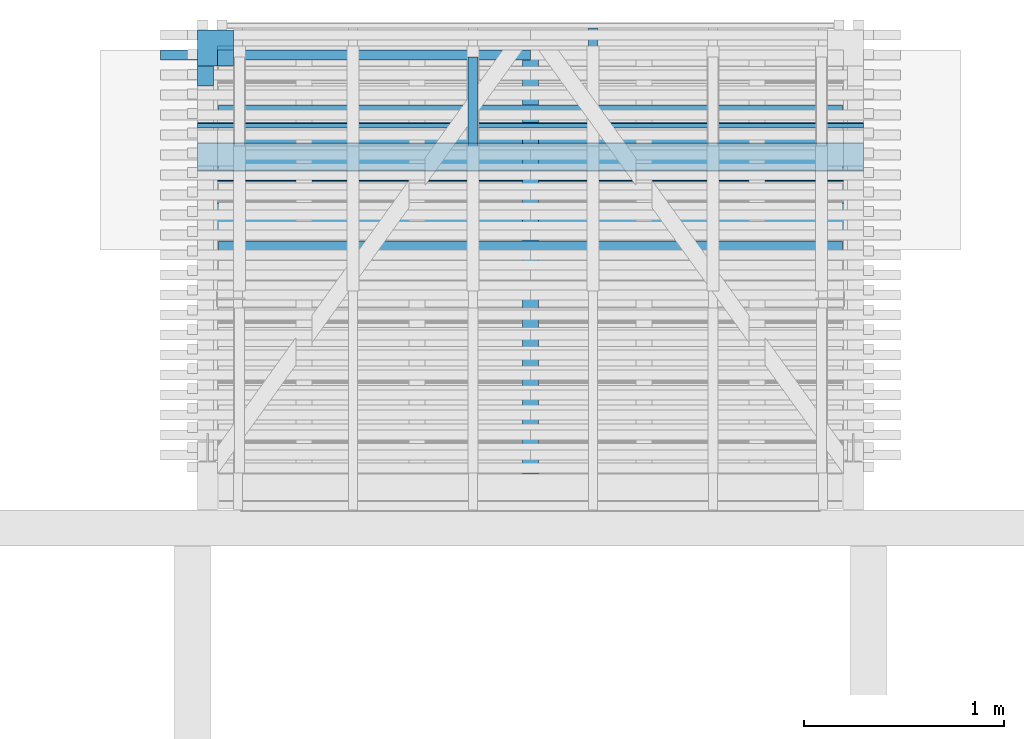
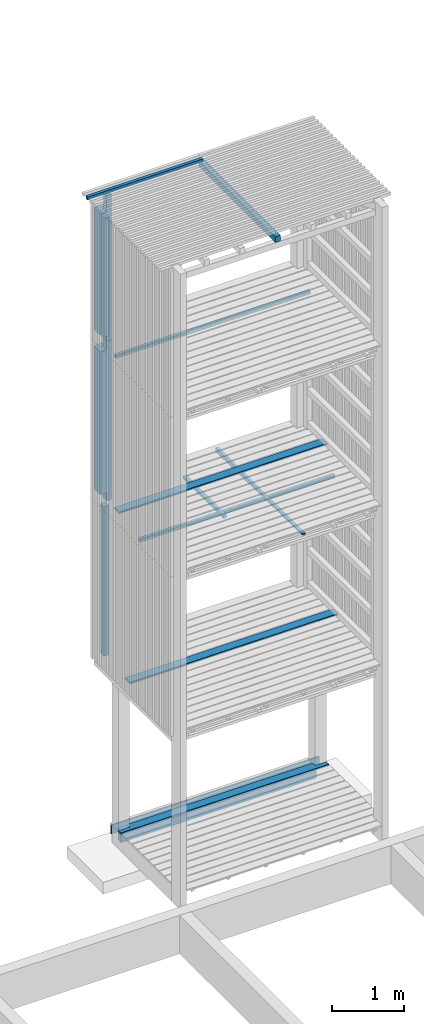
# One storey, part 146 of 182: 15 beams.
"""IFC2X3 building model written with IfcOpenShell, lengths in metres."""

from ifc_helpers import new_model, si_unit, frame, origin, place, context, project, spatial, faceted_brep, element, save


model = new_model("IFC2X3")

# Units and contexts
model_context = context("Model", 3, precision=1e-06, world=origin())
ifc_project = project(units=[si_unit("LENGTHUNIT", "METRE"), si_unit("PLANEANGLEUNIT", "RADIAN")], contexts=[model_context])

# Site, building, storey
site = spatial("IfcSite", under=ifc_project, CompositionType="ELEMENT")
building = spatial("IfcBuilding", under=site, CompositionType="ELEMENT")
storey = spatial("IfcBuildingStorey", under=building, Name="vs", CompositionType="ELEMENT", Elevation=-0.85)

# Beams
placement = place(None, origin())
beam_1_placement = place(placement, frame((36.38499999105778, 11.934577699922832, 2.733499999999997), z_axis=(0.0, 0.0, 1.0), x_axis=(-1.0, -8e-15, 0.0)))
element("IfcBeam", 1, at=beam_1_placement, inside=storey, Name="Caillebotis", context=model_context, shape_type="Brep", body=[
    faceted_brep([(3.329999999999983, -0.072500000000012, -0.0135), (3.329999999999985, 0.072499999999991, -0.0135), (3.329999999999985, 0.072499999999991, 0.0085), (3.329999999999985, 0.067499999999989, 0.0135), (3.329999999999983, -0.067500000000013, 0.0135), (3.329999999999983, -0.072500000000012, 0.008500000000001), (-1.5e-14, -0.072499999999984, 0.008500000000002), (-1.5e-14, -0.067499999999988, 0.0135), (-1.4e-14, 0.067500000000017, 0.0135), (-1.4e-14, 0.072500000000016, 0.0085), (-1.4e-14, 0.072500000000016, -0.0135), (-1.5e-14, -0.072499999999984, -0.0135), (3.329999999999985, 0.072499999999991, 0.0085), (3.329999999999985, 0.072499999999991, -0.0135), (-1.4e-14, 0.072500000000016, -0.0135), (-1.4e-14, 0.072500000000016, 0.0085), (3.329999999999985, 0.067499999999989, 0.0135), (3.329999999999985, 0.072499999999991, 0.0085), (-1.4e-14, 0.072500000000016, 0.0085), (-1.4e-14, 0.067500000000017, 0.0135), (3.329999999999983, -0.067500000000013, 0.0135), (3.329999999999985, 0.067499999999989, 0.0135), (-1.4e-14, 0.067500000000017, 0.0135), (-1.5e-14, -0.067499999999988, 0.0135), (3.329999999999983, -0.072500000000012, 0.008500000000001), (3.329999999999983, -0.067500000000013, 0.0135), (-1.5e-14, -0.067499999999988, 0.0135), (-1.5e-14, -0.072499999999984, 0.008500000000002), (3.329999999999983, -0.072500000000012, -0.0135), (3.329999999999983, -0.072500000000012, 0.008500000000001), (-1.5e-14, -0.072499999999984, 0.008500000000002), (-1.5e-14, -0.072499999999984, -0.0135), (-1.4e-14, 0.072500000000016, -0.0135), (3.329999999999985, 0.072499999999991, -0.0135), (3.329999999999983, -0.072500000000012, -0.0135), (-1.5e-14, -0.072499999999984, -0.0135)], [[[0, 1, 2, 3, 4, 5]], [[6, 7, 8, 9, 10, 11]], [[12, 13, 14, 15]], [[16, 17, 18, 19]], [[20, 21, 22, 23]], [[24, 25, 26, 27]], [[28, 29, 30, 31]], [[32, 33, 34, 35]]]),
])
beam_2_placement = place(placement, frame((36.384999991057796, 12.234577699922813, 5.433499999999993), z_axis=(0.0, 0.0, 1.0), x_axis=(-1.0, 0.0, 0.0)))
element("IfcBeam", 2, at=beam_2_placement, inside=storey, Name="Caillebotis", context=model_context, shape_type="Brep", body=[
    faceted_brep([(3.329999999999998, -0.072499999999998, -0.0135), (3.329999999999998, 0.072499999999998, -0.0135), (3.329999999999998, 0.072499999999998, 0.0085), (3.329999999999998, 0.067500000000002, 0.0135), (3.329999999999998, -0.067500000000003, 0.0135), (3.329999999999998, -0.072499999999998, 0.008500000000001), (0.0, -0.072500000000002, 0.008500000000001), (0.0, -0.067500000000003, 0.0135), (0.0, 0.067499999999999, 0.0135), (0.0, 0.072499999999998, 0.0085), (0.0, 0.072499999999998, -0.0135), (0.0, -0.072500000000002, -0.0135), (3.329999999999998, 0.072499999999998, 0.0085), (3.329999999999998, 0.072499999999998, -0.0135), (0.0, 0.072499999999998, -0.0135), (0.0, 0.072499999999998, 0.0085), (3.329999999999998, 0.067500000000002, 0.0135), (3.329999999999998, 0.072499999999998, 0.0085), (0.0, 0.072499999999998, 0.0085), (0.0, 0.067499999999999, 0.0135), (3.329999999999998, -0.067500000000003, 0.0135), (3.329999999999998, 0.067500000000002, 0.0135), (0.0, 0.067499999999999, 0.0135), (0.0, -0.067500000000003, 0.0135), (3.329999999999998, -0.072499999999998, 0.008500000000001), (3.329999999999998, -0.067500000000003, 0.0135), (0.0, -0.067500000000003, 0.0135), (0.0, -0.072500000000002, 0.008500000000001), (3.329999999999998, -0.072499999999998, -0.0135), (3.329999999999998, -0.072499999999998, 0.008500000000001), (0.0, -0.072500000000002, 0.008500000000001), (0.0, -0.072500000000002, -0.0135), (0.0, 0.072499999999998, -0.0135), (3.329999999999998, 0.072499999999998, -0.0135), (3.329999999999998, -0.072499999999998, -0.0135), (0.0, -0.072500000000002, -0.0135)], [[[0, 1, 2, 3, 4, 5]], [[6, 7, 8, 9, 10, 11]], [[12, 13, 14, 15]], [[16, 17, 18, 19]], [[20, 21, 22, 23]], [[24, 25, 26, 27]], [[28, 29, 30, 31]], [[32, 33, 34, 35]]]),
])
beam_3_placement = place(placement, frame((36.28499999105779, 12.33007769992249, -0.159999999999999), z_axis=(0.0, 0.0, 1.0), x_axis=(-1.0, 0.0, 0.0)))
element("IfcBeam", 3, at=beam_3_placement, inside=storey, Name="Sommier", context=model_context, shape_type="Brep", body=[
    faceted_brep([(3.129999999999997, 0.040000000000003, -0.1), (3.129999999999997, -0.039999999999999, -0.1), (1e-15, -0.040000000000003, -0.1), (1e-15, 0.039999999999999, -0.1), (3.129999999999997, 0.040000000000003, 0.1), (3.129999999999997, 0.040000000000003, -0.1), (1e-15, 0.039999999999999, -0.1), (1e-15, 0.039999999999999, 0.1), (3.129999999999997, 0.040000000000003, -0.1), (3.129999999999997, 0.040000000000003, 0.1), (3.129999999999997, -0.039999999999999, 0.1), (3.129999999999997, -0.039999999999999, -0.1), (3.129999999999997, -0.039999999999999, 0.1), (3.129999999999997, 0.040000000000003, 0.1), (1e-15, 0.039999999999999, 0.1), (1e-15, -0.040000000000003, 0.1), (1e-15, -0.040000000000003, -0.1), (3.129999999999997, -0.039999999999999, -0.1), (3.129999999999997, -0.039999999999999, 0.1), (1e-15, -0.040000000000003, 0.1), (1e-15, 0.039999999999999, -0.1), (1e-15, -0.040000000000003, -0.1), (1e-15, -0.040000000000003, 0.1), (1e-15, 0.039999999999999, 0.1)], [[[0, 1, 2, 3]], [[4, 5, 6, 7]], [[8, 9, 10, 11]], [[12, 13, 14, 15]], [[16, 17, 18, 19]], [[20, 21, 22, 23]]]),
])
beam_4_placement = place(placement, frame((36.38499999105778, 12.184577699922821, 0.033500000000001), z_axis=(0.0, 0.0, 1.0), x_axis=(-1.0, 0.0, 0.0)))
element("IfcBeam", 4, at=beam_4_placement, inside=storey, Name="Caillebotis", context=model_context, shape_type="Brep", body=[
    faceted_brep([(0.184999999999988, -0.000499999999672, -0.0135), (0.184999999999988, -0.072499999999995, -0.0135), (0.184999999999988, -0.072499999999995, 0.008500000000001), (0.184999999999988, -0.067499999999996, 0.0135), (0.184999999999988, -0.000499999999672, 0.0135), (3.329999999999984, -0.000499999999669, 0.0135), (3.329999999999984, -0.000499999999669, -0.013500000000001), (3.329999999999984, 0.072500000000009, -0.013500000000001), (3.329999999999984, 0.072500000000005, 0.0085), (3.329999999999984, 0.067500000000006, 0.0135), (3.144999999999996, -0.072499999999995, 0.008500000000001), (3.144999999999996, -0.072499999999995, -0.013500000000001), (3.144999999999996, -0.000499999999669, -0.013500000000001), (3.144999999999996, -0.000499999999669, 0.0135), (3.144999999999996, -0.067499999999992, 0.0135), (3.144999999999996, -0.000499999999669, 0.0135), (3.144999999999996, -0.000499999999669, -0.013500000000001), (3.329999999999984, -0.000499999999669, -0.013500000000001), (3.329999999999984, -0.000499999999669, 0.0135), (0.184999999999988, -0.067499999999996, 0.0135), (0.184999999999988, -0.072499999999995, 0.008500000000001), (3.144999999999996, -0.072499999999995, 0.008500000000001), (3.144999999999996, -0.067499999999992, 0.0135), (0.184999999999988, -0.072499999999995, 0.008500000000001), (0.184999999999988, -0.072499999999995, -0.0135), (3.144999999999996, -0.072499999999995, -0.013500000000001), (3.144999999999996, -0.072499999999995, 0.008500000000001), (0.0, 0.072500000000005, -0.0135), (0.0, -0.000499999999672, -0.0135), (0.0, -0.000499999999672, 0.0135), (0.0, 0.067500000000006, 0.0135), (0.0, 0.072500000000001, 0.0085), (0.184999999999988, -0.000499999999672, 0.0135), (0.184999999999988, -0.067499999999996, 0.0135), (3.144999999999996, -0.067499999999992, 0.0135), (3.144999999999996, -0.000499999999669, 0.0135), (3.329999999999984, -0.000499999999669, 0.0135), (3.329999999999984, 0.067500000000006, 0.0135), (0.0, 0.067500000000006, 0.0135), (0.0, -0.000499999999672, 0.0135), (0.184999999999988, -0.000499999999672, -0.0135), (0.184999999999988, -0.000499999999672, 0.0135), (0.0, -0.000499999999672, 0.0135), (0.0, -0.000499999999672, -0.0135), (3.329999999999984, 0.072500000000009, -0.013500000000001), (3.329999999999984, -0.000499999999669, -0.013500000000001), (3.144999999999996, -0.000499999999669, -0.013500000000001), (3.144999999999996, -0.072499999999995, -0.013500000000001), (0.184999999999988, -0.072499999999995, -0.0135), (0.184999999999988, -0.000499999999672, -0.0135), (0.0, -0.000499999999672, -0.0135), (0.0, 0.072500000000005, -0.0135), (3.329999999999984, 0.072500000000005, 0.0085), (3.329999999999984, 0.072500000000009, -0.013500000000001), (0.0, 0.072500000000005, -0.0135), (0.0, 0.072500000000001, 0.0085), (0.0, 0.067500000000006, 0.0135), (3.329999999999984, 0.067500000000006, 0.0135), (3.329999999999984, 0.072500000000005, 0.0085), (0.0, 0.072500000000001, 0.0085)], [[[0, 1, 2, 3, 4]], [[5, 6, 7, 8, 9]], [[10, 11, 12, 13, 14]], [[15, 16, 17, 18]], [[19, 20, 21, 22]], [[23, 24, 25, 26]], [[27, 28, 29, 30, 31]], [[32, 33, 34, 35, 36, 37, 38, 39]], [[40, 41, 42, 43]], [[44, 45, 46, 47, 48, 49, 50, 51]], [[52, 53, 54, 55]], [[56, 57, 58, 59]]]),
])
beam_5_placement = place(placement, frame((33.0549999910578, 12.393577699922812, -0.0575), z_axis=(0.0, 0.0, -1.0), x_axis=(1.0, 0.0, 0.0)))
element("IfcBeam", 5, at=beam_5_placement, inside=storey, Name="Caillebotis", context=model_context, shape_type="Brep", body=[
    faceted_brep([(2e-15, -0.008499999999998, -0.0725), (2e-15, -0.0135, -0.067500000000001), (2e-15, -0.0135, 0.067500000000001), (2e-15, -0.008500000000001, 0.0725), (2e-15, 0.013500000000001, 0.0725), (2e-15, 0.013500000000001, -0.0725), (3.329999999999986, 0.013499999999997, -0.0725), (3.329999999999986, 0.013499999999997, 0.0725), (3.329999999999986, -0.008500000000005, 0.0725), (3.329999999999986, -0.0135, 0.067500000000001), (3.329999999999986, -0.0135, -0.067500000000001), (3.329999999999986, -0.008500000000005, -0.0725), (2e-15, -0.0135, 0.067500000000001), (2e-15, -0.0135, -0.067500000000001), (3.329999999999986, -0.0135, -0.067500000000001), (3.329999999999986, -0.0135, 0.067500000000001), (2e-15, -0.008500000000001, 0.0725), (2e-15, -0.0135, 0.067500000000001), (3.329999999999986, -0.0135, 0.067500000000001), (3.329999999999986, -0.008500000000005, 0.0725), (2e-15, 0.013500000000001, 0.0725), (2e-15, -0.008500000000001, 0.0725), (3.329999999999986, -0.008500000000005, 0.0725), (3.329999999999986, 0.013499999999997, 0.0725), (2e-15, 0.013500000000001, -0.0725), (2e-15, 0.013500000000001, 0.0725), (3.329999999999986, 0.013499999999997, 0.0725), (3.329999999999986, 0.013499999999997, -0.0725), (2e-15, -0.008499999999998, -0.0725), (2e-15, 0.013500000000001, -0.0725), (3.329999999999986, 0.013499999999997, -0.0725), (3.329999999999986, -0.008500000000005, -0.0725), (3.329999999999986, -0.0135, -0.067500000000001), (2e-15, -0.0135, -0.067500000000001), (2e-15, -0.008499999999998, -0.0725), (3.329999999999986, -0.008500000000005, -0.0725)], [[[0, 1, 2, 3, 4, 5]], [[6, 7, 8, 9, 10, 11]], [[12, 13, 14, 15]], [[16, 17, 18, 19]], [[20, 21, 22, 23]], [[24, 25, 26, 27]], [[28, 29, 30, 31]], [[32, 33, 34, 35]]]),
])
beam_6_placement = place(placement, frame((35.03299999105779, 10.470077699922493, 5.384400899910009), z_axis=(0.0, 0.0, 1.0), x_axis=(0.0, 1.0, 0.0)))
element("IfcBeam", 6, at=beam_6_placement, inside=storey, Name="Calage", context=model_context, shape_type="Brep", body=[
    faceted_brep([(2.410000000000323, -0.022499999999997, -0.035599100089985), (0.0, -0.022499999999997, 0.012600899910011), (0.0, 0.022500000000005, 0.012600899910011), (2.410000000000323, 0.02249999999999, -0.035599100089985), (0.0, 0.022500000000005, 0.035599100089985), (0.0, 0.022500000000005, 0.012600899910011), (0.0, -0.022499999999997, 0.012600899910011), (0.0, -0.022499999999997, 0.035599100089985), (2.410000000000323, 0.02249999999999, -0.035599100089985), (0.0, 0.022500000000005, 0.012600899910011), (0.0, 0.022500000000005, 0.035599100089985), (2.410000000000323, 0.022500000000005, 0.035599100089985), (2.410000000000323, -0.022499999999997, 0.035599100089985), (0.0, -0.022499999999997, 0.035599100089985), (0.0, -0.022499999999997, 0.012600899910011), (2.410000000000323, -0.022499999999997, -0.035599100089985), (2.410000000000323, 0.022500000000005, 0.035599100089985), (0.0, 0.022500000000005, 0.035599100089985), (0.0, -0.022499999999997, 0.035599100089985), (2.410000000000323, -0.022499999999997, 0.035599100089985), (2.410000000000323, 0.02249999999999, -0.035599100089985), (2.410000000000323, 0.022500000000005, 0.035599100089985), (2.410000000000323, -0.022499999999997, 0.035599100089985), (2.410000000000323, -0.022499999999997, -0.035599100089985)], [[[0, 1, 2, 3]], [[4, 5, 6, 7]], [[8, 9, 10, 11]], [[12, 13, 14, 15]], [[16, 17, 18, 19]], [[20, 21, 22, 23]]]),
])
beam_7_placement = place(placement, frame((34.4329999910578, 12.735077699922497, 5.217399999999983), z_axis=(0.0, 0.0, 1.0), x_axis=(0.0, -1.0, 0.0)))
element("IfcBeam", 7, at=beam_7_placement, inside=storey, Name="Calage", context=model_context, shape_type="Brep", body=[
    faceted_brep([(1.115000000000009, 0.024999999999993, 0.024999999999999), (1.115000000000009, -0.025000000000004, 0.024999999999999), (1.115000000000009, -0.025000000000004, -0.025), (1.115000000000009, 0.024999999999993, -0.025), (0.0, -0.025000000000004, -0.025), (0.0, -0.025000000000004, 0.024999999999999), (0.0, 0.024999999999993, 0.024999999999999), (0.0, 0.024999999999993, -0.025), (1.115000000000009, -0.025000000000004, 0.024999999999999), (1.115000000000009, 0.024999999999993, 0.024999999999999), (0.0, 0.024999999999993, 0.024999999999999), (0.0, -0.025000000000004, 0.024999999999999), (1.115000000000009, -0.025000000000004, -0.025), (1.115000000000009, -0.025000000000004, 0.024999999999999), (0.0, -0.025000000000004, 0.024999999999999), (0.0, -0.025000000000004, -0.025), (1.115000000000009, 0.024999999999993, -0.025), (1.115000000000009, -0.025000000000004, -0.025), (0.0, -0.025000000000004, -0.025), (0.0, 0.024999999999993, -0.025), (0.0, 0.024999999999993, 0.024999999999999), (1.115000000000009, 0.024999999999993, 0.024999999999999), (1.115000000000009, 0.024999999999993, -0.025), (0.0, 0.024999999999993, -0.025)], [[[0, 1, 2, 3]], [[4, 5, 6, 7]], [[8, 9, 10, 11]], [[12, 13, 14, 15]], [[16, 17, 18, 19]], [[20, 21, 22, 23]]]),
])
beam_8_placement = place(placement, frame((36.27999999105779, 11.789244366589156, 5.167399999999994), z_axis=(0.0, 0.0, 1.0), x_axis=(-1.0, 0.0, 0.0)))
element("IfcBeam", 8, at=beam_8_placement, inside=storey, Name="Bardage", context=model_context, shape_type="Brep", body=[
    faceted_brep([(3.120000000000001, 0.025000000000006, -0.024999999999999), (3.120000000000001, 0.025000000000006, 0.025), (3.120000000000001, -0.024999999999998, 0.025), (3.120000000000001, -0.024999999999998, -0.024999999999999), (-3e-15, -0.024999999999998, -0.024999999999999), (-3e-15, -0.024999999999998, 0.025), (-3e-15, 0.025000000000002, 0.025), (-3e-15, 0.025000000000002, -0.024999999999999), (-3e-15, 0.025000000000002, -0.024999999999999), (-3e-15, 0.025000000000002, 0.025), (3.120000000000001, 0.025000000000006, 0.025), (3.120000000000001, 0.025000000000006, -0.024999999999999), (-3e-15, 0.025000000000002, 0.025), (-3e-15, -0.024999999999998, 0.025), (3.120000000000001, -0.024999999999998, 0.025), (3.120000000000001, 0.025000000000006, 0.025), (-3e-15, -0.024999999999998, 0.025), (-3e-15, -0.024999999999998, -0.024999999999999), (3.120000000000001, -0.024999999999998, -0.024999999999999), (3.120000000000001, -0.024999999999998, 0.025), (-3e-15, -0.024999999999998, -0.024999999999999), (-3e-15, 0.025000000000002, -0.024999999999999), (3.120000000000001, 0.025000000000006, -0.024999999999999), (3.120000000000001, -0.024999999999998, -0.024999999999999)], [[[0, 1, 2, 3]], [[4, 5, 6, 7]], [[8, 9, 10, 11]], [[12, 13, 14, 15]], [[16, 17, 18, 19]], [[20, 21, 22, 23]]]),
])
beam_9_placement = place(placement, frame((34.719999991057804, 10.650077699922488, 10.404999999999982), z_axis=(0.0, 0.0, 1.0), x_axis=(0.0, 1.0, 0.0)))
element("IfcBeam", 9, at=beam_9_placement, inside=storey, Name="Support bardage", context=model_context, shape_type="Brep", body=[
    faceted_brep([(2.120000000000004, -0.039999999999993, 0.050000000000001), (2.120000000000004, 0.040000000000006, 0.050000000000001), (3e-15, 0.040000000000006, 0.050000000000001), (3e-15, -0.039999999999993, 0.050000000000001), (3e-15, 0.040000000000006, 0.050000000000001), (2.120000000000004, 0.040000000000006, 0.050000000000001), (2.120000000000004, 0.040000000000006, -0.050000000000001), (3e-15, 0.040000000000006, -0.050000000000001), (2.120000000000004, 0.040000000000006, 0.050000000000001), (2.120000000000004, -0.039999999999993, 0.050000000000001), (2.120000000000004, -0.039999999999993, -0.050000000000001), (2.120000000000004, 0.040000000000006, -0.050000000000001), (2.120000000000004, -0.039999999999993, -0.050000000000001), (2.120000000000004, -0.039999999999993, 0.050000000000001), (3e-15, -0.039999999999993, 0.050000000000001), (3e-15, -0.039999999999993, -0.050000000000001), (3e-15, 0.040000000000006, -0.050000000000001), (2.120000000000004, 0.040000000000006, -0.050000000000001), (2.120000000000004, -0.039999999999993, -0.050000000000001), (3e-15, -0.039999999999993, -0.050000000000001), (3e-15, 0.040000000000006, 0.050000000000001), (3e-15, 0.040000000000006, -0.050000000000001), (3e-15, -0.039999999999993, -0.050000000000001), (3e-15, -0.039999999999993, 0.050000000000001)], [[[0, 1, 2, 3]], [[4, 5, 6, 7]], [[8, 9, 10, 11]], [[12, 13, 14, 15]], [[16, 17, 18, 19]], [[20, 21, 22, 23]]]),
])
beam_10_placement = place(placement, frame((36.27999999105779, 12.468827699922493, 7.86739999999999), z_axis=(0.0, 0.0, 1.0), x_axis=(-1.0, 0.0, 0.0)))
element("IfcBeam", 10, at=beam_10_placement, inside=storey, Name="Bardage", context=model_context, shape_type="Brep", body=[
    faceted_brep([(3.120000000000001, 0.025000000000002, -0.024999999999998), (3.120000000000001, 0.025000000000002, 0.025000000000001), (3.120000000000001, -0.024999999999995, 0.025000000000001), (3.120000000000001, -0.024999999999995, -0.024999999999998), (-3e-15, -0.024999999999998, -0.024999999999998), (-3e-15, -0.024999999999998, 0.025000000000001), (-3e-15, 0.025000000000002, 0.025000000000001), (-3e-15, 0.025000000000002, -0.024999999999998), (-3e-15, 0.025000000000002, -0.024999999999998), (-3e-15, 0.025000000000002, 0.025000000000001), (3.120000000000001, 0.025000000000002, 0.025000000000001), (3.120000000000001, 0.025000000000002, -0.024999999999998), (-3e-15, 0.025000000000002, 0.025000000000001), (-3e-15, -0.024999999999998, 0.025000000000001), (3.120000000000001, -0.024999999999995, 0.025000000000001), (3.120000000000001, 0.025000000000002, 0.025000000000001), (-3e-15, -0.024999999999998, 0.025000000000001), (-3e-15, -0.024999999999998, -0.024999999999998), (3.120000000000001, -0.024999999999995, -0.024999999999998), (3.120000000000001, -0.024999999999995, 0.025000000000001), (-3e-15, -0.024999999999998, -0.024999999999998), (-3e-15, 0.025000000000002, -0.024999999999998), (3.120000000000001, 0.025000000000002, -0.024999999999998), (3.120000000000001, -0.024999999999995, -0.024999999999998)], [[[0, 1, 2, 3]], [[4, 5, 6, 7]], [[8, 9, 10, 11]], [[12, 13, 14, 15]], [[16, 17, 18, 19]], [[20, 21, 22, 23]]]),
])
beam_11_placement = place(placement, frame((33.1449999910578, 12.78007769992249, 7.979999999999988), z_axis=(0.0, -1.0, 0.0), x_axis=(0.0, 0.0, 1.0)))
element("IfcBeam", 11, at=beam_11_placement, inside=storey, Name="Poteau", context=model_context, shape_type="Brep", body=[
    faceted_brep([(2.194999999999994, -0.009999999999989, 0.089999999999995), (2.194999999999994, -0.009999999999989, 0.010000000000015), (2.194999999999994, -0.089999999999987, 0.010000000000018), (2.194999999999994, -0.089999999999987, -0.090000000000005), (2.194999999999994, 0.090000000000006, -0.090000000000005), (2.194999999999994, 0.090000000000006, 0.089999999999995), (0.139999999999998, 0.090000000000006, 0.089999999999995), (2.194999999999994, 0.090000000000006, 0.089999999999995), (2.194999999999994, 0.090000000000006, -0.090000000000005), (0.139999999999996, 0.090000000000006, -0.090000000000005), (0.059999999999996, -0.009999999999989, -0.009999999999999), (0.059999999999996, -0.089999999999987, -0.009999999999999), (-1e-15, -0.089999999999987, -0.009999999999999), (-1e-15, -0.009999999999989, -0.009999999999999), (-1e-15, -0.009999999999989, 0.089999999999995), (-1e-15, -0.009999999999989, -0.009999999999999), (-1e-15, -0.089999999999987, -0.009999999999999), (-1e-15, -0.089999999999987, 0.089999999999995), (0.139999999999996, -0.009999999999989, -0.090000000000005), (0.139999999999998, -0.009999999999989, 0.089999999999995), (0.139999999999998, 0.090000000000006, 0.089999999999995), (0.139999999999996, 0.090000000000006, -0.090000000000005), (0.059999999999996, -0.089999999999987, -0.009999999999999), (0.059999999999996, -0.009999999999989, -0.009999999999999), (0.059999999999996, -0.009999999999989, -0.090000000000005), (0.059999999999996, -0.089999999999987, -0.090000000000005), (-1e-15, -0.009999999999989, -0.009999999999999), (-1e-15, -0.009999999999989, 0.089999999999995), (0.139999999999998, -0.009999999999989, 0.089999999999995), (0.139999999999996, -0.009999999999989, -0.090000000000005), (0.059999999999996, -0.009999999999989, -0.090000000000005), (0.059999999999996, -0.009999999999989, -0.009999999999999), (0.059999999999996, -0.089999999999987, -0.090000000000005), (0.059999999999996, -0.009999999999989, -0.090000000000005), (0.139999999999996, -0.009999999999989, -0.090000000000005), (0.139999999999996, 0.090000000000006, -0.090000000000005), (2.194999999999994, 0.090000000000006, -0.090000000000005), (2.194999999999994, -0.089999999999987, -0.090000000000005), (2.474999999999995, -0.089999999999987, 0.089999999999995), (-1e-15, -0.089999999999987, 0.089999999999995), (-1e-15, -0.089999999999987, -0.009999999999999), (0.059999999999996, -0.089999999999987, -0.009999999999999), (0.059999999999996, -0.089999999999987, -0.090000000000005), (2.194999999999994, -0.089999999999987, -0.090000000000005), (2.194999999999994, -0.089999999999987, 0.010000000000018), (2.474999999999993, -0.089999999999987, 0.010000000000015), (2.474999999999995, -0.089999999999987, 0.089999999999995), (2.474999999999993, -0.089999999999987, 0.010000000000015), (2.474999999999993, -0.009999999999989, 0.010000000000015), (2.474999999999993, -0.009999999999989, 0.089999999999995), (2.194999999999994, -0.089999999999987, 0.010000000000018), (2.194999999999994, -0.009999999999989, 0.010000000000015), (2.474999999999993, -0.009999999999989, 0.010000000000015), (2.474999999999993, -0.089999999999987, 0.010000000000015), (2.474999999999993, -0.009999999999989, 0.089999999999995), (2.474999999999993, -0.009999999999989, 0.010000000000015), (2.194999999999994, -0.009999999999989, 0.010000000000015), (2.194999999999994, -0.009999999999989, 0.089999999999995), (2.474999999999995, -0.089999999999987, 0.089999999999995), (2.474999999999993, -0.009999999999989, 0.089999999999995), (2.194999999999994, -0.009999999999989, 0.089999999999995), (2.194999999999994, 0.090000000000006, 0.089999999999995), (0.139999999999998, 0.090000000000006, 0.089999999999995), (0.139999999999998, -0.009999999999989, 0.089999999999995), (-1e-15, -0.009999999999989, 0.089999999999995), (-1e-15, -0.089999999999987, 0.089999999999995)], [[[0, 1, 2, 3, 4, 5]], [[6, 7, 8, 9]], [[10, 11, 12, 13]], [[14, 15, 16, 17]], [[18, 19, 20, 21]], [[22, 23, 24, 25]], [[26, 27, 28, 29, 30, 31]], [[32, 33, 34, 35, 36, 37]], [[38, 39, 40, 41, 42, 43, 44, 45]], [[46, 47, 48, 49]], [[50, 51, 52, 53]], [[54, 55, 56, 57]], [[58, 59, 60, 61, 62, 63, 64, 65]]]),
])
beam_12_placement = place(placement, frame((34.719999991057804, 12.745077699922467, 10.47999999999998), z_axis=(0.0, 0.0, 1.0), x_axis=(-1.0, 0.0, 0.0)))
element("IfcBeam", 12, at=beam_12_placement, inside=storey, Name="Bardage", context=model_context, shape_type="Brep", body=[
    faceted_brep([(1.850000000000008, -0.024999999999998, -0.024999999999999), (1.850000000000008, -0.024999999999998, 0.025000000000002), (-1e-15, -0.024999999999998, 0.025000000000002), (-1e-15, -0.024999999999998, -0.024999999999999), (1.850000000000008, -0.024999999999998, 0.025000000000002), (1.850000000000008, -0.024999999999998, -0.024999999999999), (1.850000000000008, 0.024999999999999, -0.024999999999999), (1.850000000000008, 0.024999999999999, 0.025000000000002), (1.850000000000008, 0.024999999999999, -0.024999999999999), (1.850000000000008, -0.024999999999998, -0.024999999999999), (-1e-15, -0.024999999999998, -0.024999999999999), (-1e-15, 0.024999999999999, -0.024999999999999), (1.850000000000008, 0.024999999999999, 0.025000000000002), (1.850000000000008, 0.024999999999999, -0.024999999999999), (-1e-15, 0.024999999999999, -0.024999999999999), (-1e-15, 0.024999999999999, 0.025000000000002), (-1e-15, -0.024999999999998, 0.025000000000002), (1.850000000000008, -0.024999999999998, 0.025000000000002), (1.850000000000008, 0.024999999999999, 0.025000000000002), (-1e-15, 0.024999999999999, 0.025000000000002), (-1e-15, -0.024999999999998, -0.024999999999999), (-1e-15, -0.024999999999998, 0.025000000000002), (-1e-15, 0.024999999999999, 0.025000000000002), (-1e-15, 0.024999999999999, -0.024999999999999)], [[[0, 1, 2, 3]], [[4, 5, 6, 7]], [[8, 9, 10, 11]], [[12, 13, 14, 15]], [[16, 17, 18, 19]], [[20, 21, 22, 23]]]),
])
beam_13_placement = place(placement, frame((33.09499999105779, 12.640077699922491, 2.746999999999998), z_axis=(0.0, -1.0, 0.0), x_axis=(0.0, 0.0, 1.0)))
element("IfcBeam", 13, at=beam_13_placement, inside=storey, Name="Support bardage", context=model_context, shape_type="Brep", body=[
    faceted_brep([(2.527961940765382, 0.039999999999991, 0.049999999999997), (2.527961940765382, -0.040000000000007, 0.049999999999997), (2.527961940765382, -0.040000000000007, -0.050000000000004), (2.527961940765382, 0.039999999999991, -0.050000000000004), (0.0, 0.039999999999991, 0.049999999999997), (2.527961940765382, 0.039999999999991, 0.049999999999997), (2.527961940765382, 0.039999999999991, -0.050000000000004), (0.0, 0.039999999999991, -0.050000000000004), (0.0, 0.039999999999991, 0.049999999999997), (0.0, 0.039999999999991, -0.050000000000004), (0.0, -0.040000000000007, -0.050000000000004), (0.0, -0.040000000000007, 0.049999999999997), (0.0, 0.039999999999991, 0.049999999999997), (0.0, -0.040000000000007, 0.049999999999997), (2.527961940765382, -0.040000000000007, 0.049999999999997), (2.527961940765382, 0.039999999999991, 0.049999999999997), (0.0, -0.040000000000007, 0.049999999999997), (0.0, -0.040000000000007, -0.050000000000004), (2.527961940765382, -0.040000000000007, -0.050000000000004), (2.527961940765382, -0.040000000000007, 0.049999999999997), (0.0, -0.040000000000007, -0.050000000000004), (0.0, 0.039999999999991, -0.050000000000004), (2.527961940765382, 0.039999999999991, -0.050000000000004), (2.527961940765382, -0.040000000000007, -0.050000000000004)], [[[0, 1, 2, 3]], [[4, 5, 6, 7]], [[8, 9, 10, 11]], [[12, 13, 14, 15]], [[16, 17, 18, 19]], [[20, 21, 22, 23]]]),
])
beam_14_placement = place(placement, frame((33.14499999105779, 12.78007769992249, 5.279999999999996), z_axis=(0.0, -1.0, 0.0), x_axis=(0.0, 0.0, 1.0)))
element("IfcBeam", 14, at=beam_14_placement, inside=storey, Name="Poteau", context=model_context, shape_type="Brep", body=[
    faceted_brep([(0.059999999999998, -0.010000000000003, -0.010000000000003), (0.059999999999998, -0.090000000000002, -0.009999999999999), (-1e-15, -0.090000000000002, -0.010000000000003), (-1e-15, -0.010000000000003, -0.010000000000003), (-1e-15, -0.010000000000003, 0.089999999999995), (-1e-15, -0.010000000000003, -0.010000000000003), (-1e-15, -0.090000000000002, -0.010000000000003), (-1e-15, -0.090000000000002, 0.089999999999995), (0.139999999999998, -0.010000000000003, -0.090000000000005), (0.139999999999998, -0.010000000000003, 0.089999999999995), (0.139999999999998, 0.089999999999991, 0.089999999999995), (0.139999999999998, 0.089999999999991, -0.090000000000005), (0.059999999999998, -0.090000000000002, -0.009999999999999), (0.059999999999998, -0.010000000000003, -0.010000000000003), (0.059999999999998, -0.010000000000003, -0.090000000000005), (0.059999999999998, -0.090000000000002, -0.090000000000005), (-1e-15, -0.010000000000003, -0.010000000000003), (-1e-15, -0.010000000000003, 0.089999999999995), (0.139999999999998, -0.010000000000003, 0.089999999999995), (0.139999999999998, -0.010000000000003, -0.090000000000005), (0.059999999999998, -0.010000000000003, -0.090000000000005), (0.059999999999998, -0.010000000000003, -0.010000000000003), (0.059999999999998, -0.090000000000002, -0.090000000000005), (0.059999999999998, -0.010000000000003, -0.090000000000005), (0.139999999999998, -0.010000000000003, -0.090000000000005), (0.139999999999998, 0.089999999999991, -0.090000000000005), (2.559999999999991, 0.089999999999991, -0.090000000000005), (2.559999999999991, -0.090000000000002, -0.090000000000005), (2.699999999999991, -0.090000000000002, -0.009999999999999), (2.699999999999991, -0.090000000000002, 0.089999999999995), (-1e-15, -0.090000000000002, 0.089999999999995), (-1e-15, -0.090000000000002, -0.010000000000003), (0.059999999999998, -0.090000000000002, -0.009999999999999), (0.059999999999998, -0.090000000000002, -0.090000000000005), (2.559999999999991, -0.090000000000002, -0.090000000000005), (2.559999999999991, -0.090000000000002, -0.009999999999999), (2.559999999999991, 0.089999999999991, -0.090000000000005), (0.139999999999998, 0.089999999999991, -0.090000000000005), (0.139999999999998, 0.089999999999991, 0.089999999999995), (2.559999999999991, 0.089999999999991, 0.089999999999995), (2.699999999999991, -0.010000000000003, 0.089999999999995), (2.559999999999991, -0.010000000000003, 0.089999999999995), (2.559999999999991, 0.089999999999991, 0.089999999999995), (0.139999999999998, 0.089999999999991, 0.089999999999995), (0.139999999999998, -0.010000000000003, 0.089999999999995), (-1e-15, -0.010000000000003, 0.089999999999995), (-1e-15, -0.090000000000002, 0.089999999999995), (2.699999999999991, -0.090000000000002, 0.089999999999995), (2.699999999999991, -0.090000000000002, -0.009999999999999), (2.559999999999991, -0.090000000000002, -0.009999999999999), (2.559999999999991, -0.010000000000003, -0.010000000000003), (2.699999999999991, -0.010000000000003, -0.009999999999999), (2.699999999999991, -0.010000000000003, 0.089999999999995), (2.699999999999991, -0.090000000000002, 0.089999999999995), (2.699999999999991, -0.090000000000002, -0.009999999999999), (2.699999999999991, -0.010000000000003, -0.009999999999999), (2.559999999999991, -0.010000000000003, 0.089999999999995), (2.699999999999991, -0.010000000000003, 0.089999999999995), (2.699999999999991, -0.010000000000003, -0.009999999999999), (2.559999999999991, -0.010000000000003, -0.010000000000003), (2.559999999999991, 0.089999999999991, -0.090000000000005), (2.559999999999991, 0.089999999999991, 0.089999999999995), (2.559999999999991, -0.010000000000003, 0.089999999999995), (2.559999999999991, -0.010000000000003, -0.010000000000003), (2.559999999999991, -0.090000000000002, -0.009999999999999), (2.559999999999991, -0.090000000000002, -0.090000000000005)], [[[0, 1, 2, 3]], [[4, 5, 6, 7]], [[8, 9, 10, 11]], [[12, 13, 14, 15]], [[16, 17, 18, 19, 20, 21]], [[22, 23, 24, 25, 26, 27]], [[28, 29, 30, 31, 32, 33, 34, 35]], [[36, 37, 38, 39]], [[40, 41, 42, 43, 44, 45, 46, 47]], [[48, 49, 50, 51]], [[52, 53, 54, 55]], [[56, 57, 58, 59]], [[60, 61, 62, 63, 64, 65]]]),
])
beam_15_placement = place(placement, frame((33.09499999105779, 12.640077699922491, 8.146999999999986), z_axis=(0.0, -1.0, 0.0), x_axis=(0.0, 0.0, 1.0)))
element("IfcBeam", 15, at=beam_15_placement, inside=storey, Name="Support bardage", context=model_context, shape_type="Brep", body=[
    faceted_brep([(2.017999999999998, -0.040000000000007, -0.050000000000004), (2.017999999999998, 0.039999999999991, -0.050000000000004), (2.017999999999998, 0.039999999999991, 0.049999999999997), (2.017999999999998, -0.040000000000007, 0.049999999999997), (1e-15, 0.039999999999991, -0.050000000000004), (1e-15, -0.040000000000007, -0.050000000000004), (1e-15, -0.040000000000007, 0.049999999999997), (1e-15, 0.039999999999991, 0.049999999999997), (2.017999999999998, 0.039999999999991, 0.049999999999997), (2.017999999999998, 0.039999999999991, -0.050000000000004), (1e-15, 0.039999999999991, -0.050000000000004), (1e-15, 0.039999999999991, 0.049999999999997), (1e-15, 0.039999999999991, -0.050000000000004), (2.017999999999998, 0.039999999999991, -0.050000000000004), (2.017999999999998, -0.040000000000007, -0.050000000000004), (1e-15, -0.040000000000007, -0.050000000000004), (1e-15, -0.040000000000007, -0.050000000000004), (2.017999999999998, -0.040000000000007, -0.050000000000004), (2.017999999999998, -0.040000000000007, 0.049999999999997), (1e-15, -0.040000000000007, 0.049999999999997), (1e-15, -0.040000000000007, 0.049999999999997), (2.017999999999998, -0.040000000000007, 0.049999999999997), (2.017999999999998, 0.039999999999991, 0.049999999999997), (1e-15, 0.039999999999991, 0.049999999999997)], [[[0, 1, 2, 3]], [[4, 5, 6, 7]], [[8, 9, 10, 11]], [[12, 13, 14, 15]], [[16, 17, 18, 19]], [[20, 21, 22, 23]]]),
])

save(model, "model.ifc")
